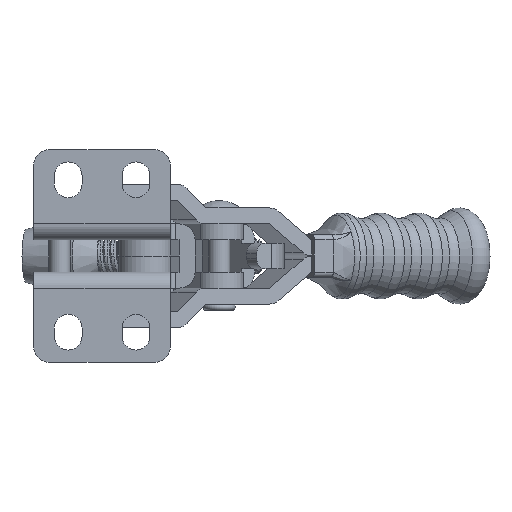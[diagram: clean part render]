
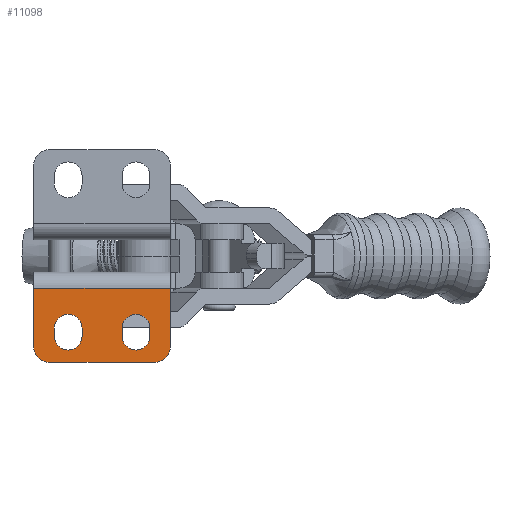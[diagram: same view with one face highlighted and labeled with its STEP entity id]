
A CAD part, front view. The second image highlights one B-rep face of the part: STEP entity #11098.
In plain terms, the highlighted planar face has unit normal (0, -1, 0).
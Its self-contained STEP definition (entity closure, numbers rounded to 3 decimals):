
#817=FACE_BOUND('',#1808,.T.);
#818=FACE_BOUND('',#1809,.T.);
#896=PLANE('',#11964);
#1182=FACE_OUTER_BOUND('',#1807,.T.);
#1807=EDGE_LOOP('',(#7652,#7653,#7654,#7655,#7656,#7657));
#1808=EDGE_LOOP('',(#7658,#7659,#7660,#7661));
#1809=EDGE_LOOP('',(#7662,#7663,#7664,#7665));
#2514=LINE('',#15250,#3453);
#2530=LINE('',#15292,#3469);
#2534=LINE('',#15300,#3473);
#2535=LINE('',#15304,#3474);
#2536=LINE('',#15307,#3475);
#2537=LINE('',#15309,#3476);
#2538=LINE('',#15312,#3477);
#2539=LINE('',#15314,#3478);
#3453=VECTOR('',#12785,1000.);
#3469=VECTOR('',#12829,1000.);
#3473=VECTOR('',#12837,1000.);
#3474=VECTOR('',#12840,1000.);
#3475=VECTOR('',#12843,1000.);
#3476=VECTOR('',#12844,1000.);
#3477=VECTOR('',#12847,1000.);
#3478=VECTOR('',#12848,1000.);
#4357=CIRCLE('',#11904,2.6);
#4359=CIRCLE('',#11907,2.6);
#4398=CIRCLE('',#11965,3.);
#4399=CIRCLE('',#11966,3.);
#4400=CIRCLE('',#11967,2.6);
#4401=CIRCLE('',#11968,2.6);
#4653=VERTEX_POINT('',#15102);
#4654=VERTEX_POINT('',#15103);
#4657=VERTEX_POINT('',#15111);
#4658=VERTEX_POINT('',#15112);
#4719=VERTEX_POINT('',#15247);
#4720=VERTEX_POINT('',#15249);
#4731=VERTEX_POINT('',#15290);
#4732=VERTEX_POINT('',#15291);
#4735=VERTEX_POINT('',#15301);
#4736=VERTEX_POINT('',#15303);
#4737=VERTEX_POINT('',#15306);
#4738=VERTEX_POINT('',#15308);
#4739=VERTEX_POINT('',#15311);
#4740=VERTEX_POINT('',#15313);
#5812=EDGE_CURVE('',#4653,#4654,#4357,.T.);
#5816=EDGE_CURVE('',#4657,#4658,#4359,.T.);
#5882=EDGE_CURVE('',#4719,#4720,#2514,.T.);
#5903=EDGE_CURVE('',#4731,#4732,#2530,.T.);
#5908=EDGE_CURVE('',#4719,#4731,#2534,.T.);
#5909=EDGE_CURVE('',#4735,#4732,#4398,.T.);
#5910=EDGE_CURVE('',#4735,#4736,#2535,.T.);
#5911=EDGE_CURVE('',#4720,#4736,#4399,.T.);
#5912=EDGE_CURVE('',#4654,#4737,#2536,.T.);
#5913=EDGE_CURVE('',#4738,#4653,#2537,.T.);
#5914=EDGE_CURVE('',#4737,#4738,#4400,.T.);
#5915=EDGE_CURVE('',#4658,#4739,#2538,.T.);
#5916=EDGE_CURVE('',#4740,#4657,#2539,.T.);
#5917=EDGE_CURVE('',#4739,#4740,#4401,.T.);
#7652=ORIENTED_EDGE('',*,*,#5882,.F.);
#7653=ORIENTED_EDGE('',*,*,#5908,.T.);
#7654=ORIENTED_EDGE('',*,*,#5903,.T.);
#7655=ORIENTED_EDGE('',*,*,#5909,.F.);
#7656=ORIENTED_EDGE('',*,*,#5910,.T.);
#7657=ORIENTED_EDGE('',*,*,#5911,.F.);
#7658=ORIENTED_EDGE('',*,*,#5912,.F.);
#7659=ORIENTED_EDGE('',*,*,#5812,.F.);
#7660=ORIENTED_EDGE('',*,*,#5913,.F.);
#7661=ORIENTED_EDGE('',*,*,#5914,.F.);
#7662=ORIENTED_EDGE('',*,*,#5915,.F.);
#7663=ORIENTED_EDGE('',*,*,#5816,.F.);
#7664=ORIENTED_EDGE('',*,*,#5916,.F.);
#7665=ORIENTED_EDGE('',*,*,#5917,.F.);
#11098=ADVANCED_FACE('',(#1182,#817,#818),#896,.F.);
#11904=AXIS2_PLACEMENT_3D('',#15104,#12660,#12661);
#11907=AXIS2_PLACEMENT_3D('',#15113,#12668,#12669);
#11964=AXIS2_PLACEMENT_3D('',#15299,#12835,#12836);
#11965=AXIS2_PLACEMENT_3D('',#15302,#12838,#12839);
#11966=AXIS2_PLACEMENT_3D('',#15305,#12841,#12842);
#11967=AXIS2_PLACEMENT_3D('',#15310,#12845,#12846);
#11968=AXIS2_PLACEMENT_3D('',#15315,#12849,#12850);
#12660=DIRECTION('center_axis',(0.,-1.,0.));
#12661=DIRECTION('ref_axis',(-1.,0.,0.));
#12668=DIRECTION('center_axis',(0.,-1.,0.));
#12669=DIRECTION('ref_axis',(-1.,0.,0.));
#12785=DIRECTION('',(0.,0.,-1.));
#12829=DIRECTION('',(0.,0.,-1.));
#12835=DIRECTION('center_axis',(0.,1.,0.));
#12836=DIRECTION('ref_axis',(-1.,0.,0.));
#12837=DIRECTION('',(-1.,0.,0.));
#12838=DIRECTION('center_axis',(0.,1.,0.));
#12839=DIRECTION('ref_axis',(-1.,0.,0.));
#12840=DIRECTION('',(1.,0.,0.));
#12841=DIRECTION('center_axis',(0.,1.,0.));
#12842=DIRECTION('ref_axis',(-1.,0.,0.));
#12843=DIRECTION('',(0.,0.,1.));
#12844=DIRECTION('',(0.,0.,-1.));
#12845=DIRECTION('center_axis',(0.,-1.,0.));
#12846=DIRECTION('ref_axis',(-1.,0.,0.));
#12847=DIRECTION('',(0.,0.,1.));
#12848=DIRECTION('',(0.,0.,-1.));
#12849=DIRECTION('center_axis',(0.,-1.,0.));
#12850=DIRECTION('ref_axis',(-1.,0.,0.));
#15102=CARTESIAN_POINT('',(-21.75,0.,-9.));
#15103=CARTESIAN_POINT('',(-16.55,0.,-9.));
#15104=CARTESIAN_POINT('Origin',(-19.15,0.,-9.));
#15111=CARTESIAN_POINT('',(-9.05,0.,-9.));
#15112=CARTESIAN_POINT('',(-3.85,0.,-9.));
#15113=CARTESIAN_POINT('Origin',(-6.45,0.,-9.));
#15247=CARTESIAN_POINT('',(0.,0.,0.));
#15249=CARTESIAN_POINT('',(0.,0.,-10.9));
#15250=CARTESIAN_POINT('',(0.,0.,12.));
#15290=CARTESIAN_POINT('',(-25.6,0.,0.));
#15291=CARTESIAN_POINT('',(-25.6,0.,-10.9));
#15292=CARTESIAN_POINT('',(-25.6,0.,12.));
#15299=CARTESIAN_POINT('Origin',(0.,0.,12.));
#15300=CARTESIAN_POINT('',(0.,0.,0.));
#15301=CARTESIAN_POINT('',(-22.6,0.,-13.9));
#15302=CARTESIAN_POINT('Origin',(-22.6,0.,-10.9));
#15303=CARTESIAN_POINT('',(-3.,0.,-13.9));
#15304=CARTESIAN_POINT('',(0.,0.,-13.9));
#15305=CARTESIAN_POINT('Origin',(-3.,0.,-10.9));
#15306=CARTESIAN_POINT('',(-16.55,0.,-7.5));
#15307=CARTESIAN_POINT('',(-16.55,0.,0.));
#15308=CARTESIAN_POINT('',(-21.75,0.,-7.5));
#15309=CARTESIAN_POINT('',(-21.75,0.,0.));
#15310=CARTESIAN_POINT('Origin',(-19.15,0.,-7.5));
#15311=CARTESIAN_POINT('',(-3.85,0.,-7.5));
#15312=CARTESIAN_POINT('',(-3.85,0.,0.));
#15313=CARTESIAN_POINT('',(-9.05,0.,-7.5));
#15314=CARTESIAN_POINT('',(-9.05,0.,0.));
#15315=CARTESIAN_POINT('Origin',(-6.45,0.,-7.5));
